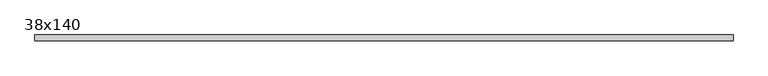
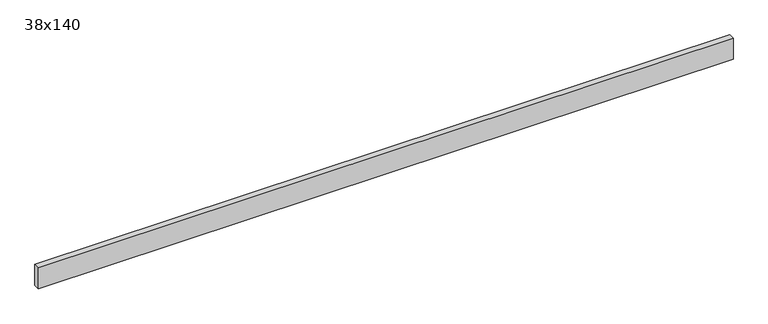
"""IFC4 building model written with IfcOpenShell, lengths in millimetres: beam geometry, Graded Timber : 38x140."""

from ifc_helpers import new_model, si_unit, frame, origin, place, context, project, spatial, polyline, outline, extrude, source, transform, mapped, element, save


def beam_38x140_6bea360a(model_context):
    return source(origin(), model_context, "Body", "SweptSolid", [
        extrude(outline(polyline([(2207.6534961, 19.0), (2207.6534961, -19.0), (-2205.3666833, -19.0), (-2205.3666833, 19.0), (2207.6534961, 19.0)])), frame((0.0, 0.0, -70.0), z_axis=(0.0, 0.0, 1.0), x_axis=(1.0, 0.0, 0.0)), (0.0, 0.0, 1.0), 140.0),
    ])


if __name__ == "__main__":
    model = new_model("IFC4")
    model_context = context("Model", 3, world=origin())
    ifc_project = project(units=[si_unit("LENGTHUNIT", "METRE", prefix="MILLI")], contexts=[model_context])
    site = spatial("IfcSite", under=ifc_project)
    building = spatial("IfcBuilding", under=site)
    placement = place(None, origin())
    beam_38x140_shape = beam_38x140_6bea360a(model_context)
    element("IfcBeam", 1, ObjectType="Graded Timber : 38x140", at=placement, inside=building, context=model_context, shape_type="MappedRepresentation", body=[
        mapped(beam_38x140_shape, transform((0.0, 0.0, 0.0), x_axis=(1.0, 0.0, 0.0), y_axis=(0.0, 1.0, 0.0), z_axis=(0.0, 0.0, 1.0))),
    ])
    save(model, "model.ifc")
